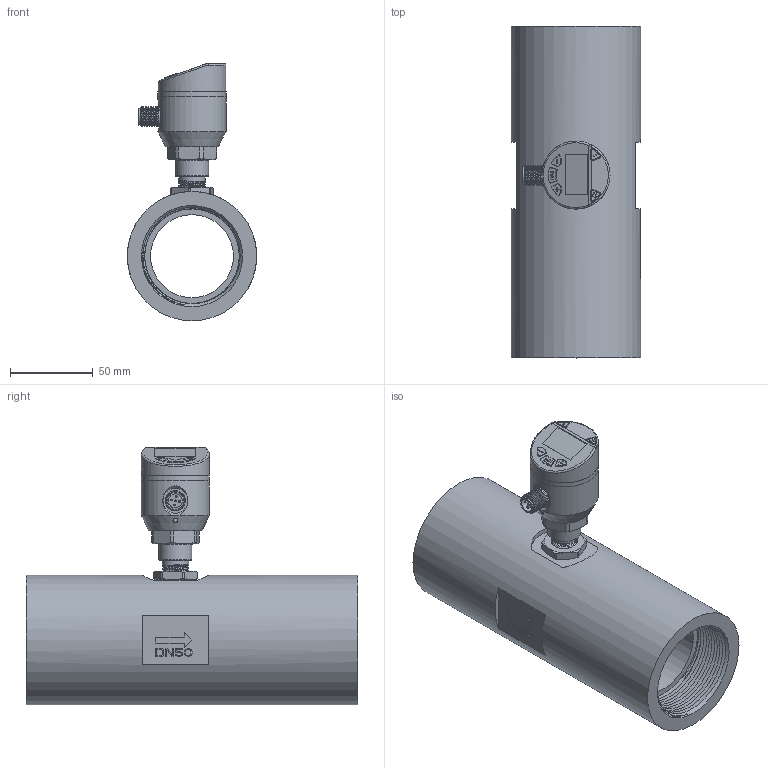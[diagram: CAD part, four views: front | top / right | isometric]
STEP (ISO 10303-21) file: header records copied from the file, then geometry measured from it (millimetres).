
FILE_DESCRIPTION( (''), '2;1');
FILE_NAME( 'QTKA_DN50_female-thread.step', '2024-01-11T15:18:26+08:00', (''), (''), '', '', '');
FILE_SCHEMA (('AUTOMOTIVE_DESIGN { 1 0 10303 214 3 1 1 1 }'));
Length unit declared in the file: millimetre
Products named in the file (1): QTKA DN50_female-thread
Bounding box: 78 x 200 x 155.3 mm (x, y, z)
Volume: 550830.9 mm3; surface area: 122213.1 mm2
Topology: 5 solids, 7 shells, 583 faces, 1464 edges, 938 vertices
Faces by surface type: plane 289, cylinder 140, bspline 60, cone 49, torus 39, sphere 6
Full cylindrical faces by diameter (mm): 1 x5, 2.7 x4, 8.4 x1, 9.7 x1, 9.8 x1, 10.1 x1, 11.6 x1, 12 x1, 15 x1, 15.9 x1, 20 x1, 23 x3, 26 x4, 26.1 x1, 37 x1, 41 x3, 50 x1, 57 x2, 78 x1
Entity records: 36115 total; most frequent: CARTESIAN_POINT 21485, ORIENTED_EDGE 2730, DIRECTION 2547, EDGE_CURVE 1365, VERTEX_POINT 897, AXIS2_PLACEMENT_3D 891, LINE 765, VECTOR 765
